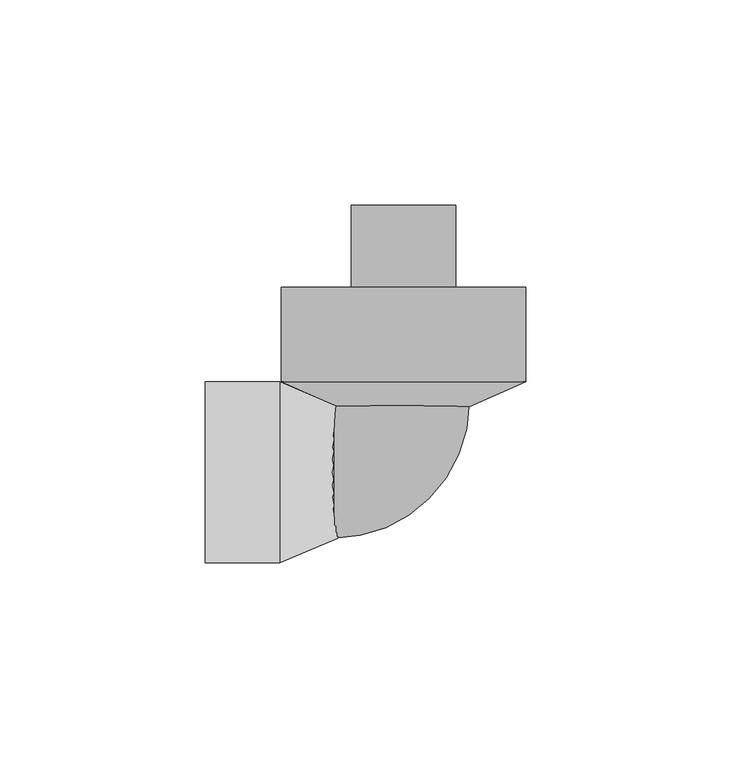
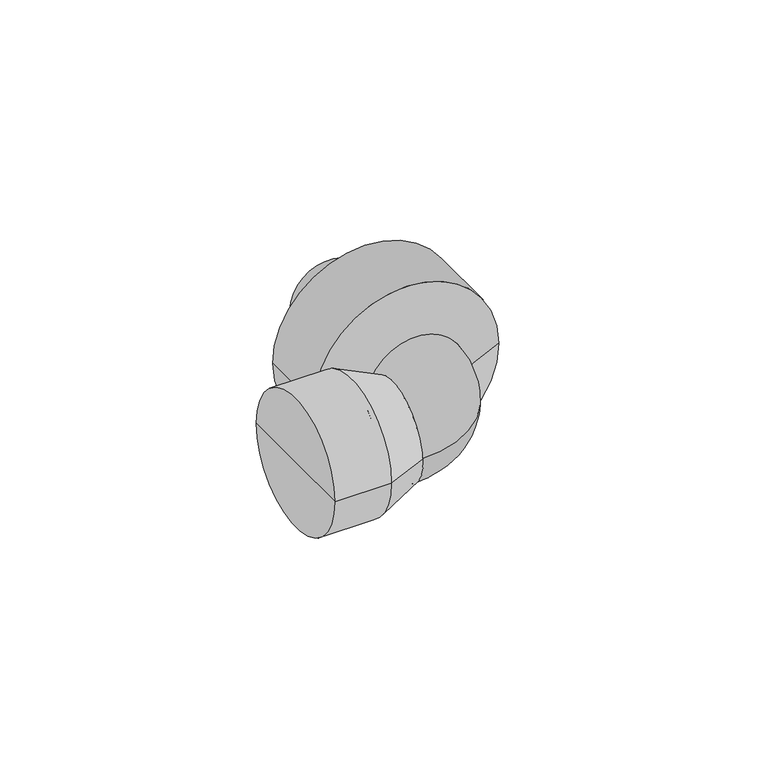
"""IFC4 building model written with IfcOpenShell, lengths in millimetres: pipe fitting geometry, KAN-therm PP kolano gz 1 : KAN-therm PP kolano gz 1."""

from ifc_helpers import new_model, si_unit, point, frame, origin, place, context, project, spatial, polyline, circle_curve, ellipse_curve, trimmed, source, transform, mapped, element, save
from ifc_brep_helpers import plane_surface, cylinder_surface, revolved_surface, advanced_brep


def pipe_fitting_ecdcb8ec(model_context):
    return source(origin(), model_context, "Body", "AdvancedBrep", [
        advanced_brep(
        [(0.0, 65.0, 0.0), (12.7, 65.0, 0.0), (-12.7, 65.0, 0.0), (-12.7, 45.0, 0.0), (12.7, 45.0, 0.0), (0.0, 45.0, 0.0)],
        [
            (0, 1),
            (1, 2, circle_curve(frame((0.0, 65.0, 0.0), z_axis=(0.0, 1.0, 0.0), x_axis=(1.0, 0.0, 0.0)), 12.7)),
            (2, 0),
            (2, 1, circle_curve(frame((0.0, 65.0, 0.0), z_axis=(0.0, 1.0, 0.0), x_axis=(1.0, 0.0, 0.0)), 12.7)),
            (3, 4, circle_curve(frame((0.0, 45.0, 0.0), z_axis=(0.0, -1.0, 0.0), x_axis=(1.0, 0.0, 0.0)), 12.7)),
            (4, 5),
            (5, 3),
            (4, 3, circle_curve(frame((0.0, 45.0, 0.0), z_axis=(0.0, -1.0, 0.0), x_axis=(1.0, 0.0, 0.0)), 12.7)),
            (1, 4),
            (3, 2),
        ],
        [
            plane_surface(frame((0.0, 65.0, 0.0), z_axis=(0.0, 1.0, 0.0), x_axis=(1.0, 0.0, 0.0))),
            plane_surface(frame((0.0, 45.0, 0.0), z_axis=(0.0, -1.0, 0.0), x_axis=(1.0, 0.0, 0.0))),
            cylinder_surface(frame((0.0, 2017.0, 0.0), z_axis=(0.0, 1.0, 0.0), x_axis=(1.0, 0.0, 0.0)), 12.7),
        ],
        [
            (0, [[1, 2, 3]]),
            (0, [[-3, 4, -1]]),
            (1, [[5, 6, 7]]),
            (1, [[8, -7, -6]]),
            (2, [[-2, 9, -5, 10]]),
            (2, [[-4, -10, -8, -9]]),
        ],
    ),
        advanced_brep(
        [(-16.0, 33.5, 0.0), (16.0, 33.5, 0.0), (-16.0, 17.0, 0.0), (16.0, 17.0, 0.0), (-30.15, 16.0, 0.0), (-30.15, -16.0, 0.0), (-17.0, -16.0, 0.0), (-17.0, 16.0, 0.0)],
        [
            (0, 1, circle_curve(frame((0.0, 33.5, 0.0), z_axis=(0.0, 1.0, 0.0), x_axis=(1.0, 0.0, 0.0)), 16.0)),
            (1, 0, circle_curve(frame((0.0, 33.5, 0.0), z_axis=(0.0, 1.0, 0.0), x_axis=(1.0, 0.0, 0.0)), 16.0)),
            (0, 2),
            (2, 3, circle_curve(frame((0.0, 17.0, 0.0), z_axis=(0.0, 1.0, 0.0), x_axis=(1.0, 0.0, 0.0)), 16.0)),
            (3, 1),
            (3, 2, circle_curve(frame((0.0, 17.0, 0.0), z_axis=(0.0, 1.0, 0.0), x_axis=(1.0, 0.0, 0.0)), 16.0)),
            (4, 5, circle_curve(frame((-30.15, 0.0, 0.0), z_axis=(-1.0, 0.0, 0.0), x_axis=(0.0, -1.0, 0.0)), 16.0)),
            (5, 4, circle_curve(frame((-30.15, 0.0, 0.0), z_axis=(-1.0, 0.0, 0.0), x_axis=(0.0, -1.0, 0.0)), 16.0)),
            (6, 7, circle_curve(frame((-17.0, 0.0, 0.0), z_axis=(-1.0, 0.0, 0.0), x_axis=(0.0, -1.0, 0.0)), 16.0)),
            (7, 4),
            (5, 6),
            (7, 6, circle_curve(frame((-17.0, 0.0, 0.0), z_axis=(-1.0, 0.0, 0.0), x_axis=(0.0, -1.0, 0.0)), 16.0)),
            (6, 3, circle_curve(frame((-17.0, 17.0, 0.0), z_axis=(0.0, 0.0, 1.0), x_axis=(1.0, 0.0, 0.0)), 33.0)),
            (2, 7, circle_curve(frame((-17.0, 17.0, 0.0), z_axis=(0.0, 0.0, -1.0), x_axis=(1.0, 0.0, 0.0)), 1.0)),
        ],
        [
            plane_surface(frame((0.0, 33.5, 0.0), z_axis=(0.0, 1.0, 0.0), x_axis=(0.0, 0.0, 1.0))),
            cylinder_surface(frame((0.0, 33.5, 0.0), z_axis=(0.0, 1.0, 0.0), x_axis=(1.0, 0.0, 0.0)), 16.0),
            plane_surface(frame((-30.15, 0.0, 0.0), z_axis=(-1.0, 0.0, 0.0), x_axis=(0.0, 0.0, 1.0))),
            cylinder_surface(frame((-17.0, 0.0, 0.0), z_axis=(1.0, 0.0, 0.0), x_axis=(0.0, -1.0, 0.0)), 16.0),
            revolved_surface(trimmed(ellipse_curve(frame((0.0, 17.0, 0.0), z_axis=(0.0, 1.0, 0.0), x_axis=(1.0, 0.0, 0.0)), 16.0, 16.0), [point((-16.0, 17.0, 0.0))], [point((16.0, 17.0, 0.0))], True, "CARTESIAN"), (-17.0, 17.0, 0.0), (0.0, 0.0, -1.0)),
            revolved_surface(trimmed(ellipse_curve(frame((0.0, 17.0, 0.0), z_axis=(0.0, 1.0, 0.0), x_axis=(1.0, 0.0, 0.0)), 16.0, 16.0), [point((16.0, 17.0, 0.0))], [point((-16.0, 17.0, 0.0))], True, "CARTESIAN"), (-17.0, 17.0, 0.0), (0.0, 0.0, -1.0)),
        ],
        [
            (0, [[1, 2]]),
            (1, [[-1, 3, 4, 5]]),
            (1, [[-2, -5, 6, -3]]),
            (2, [[7, 8]]),
            (3, [[9, 10, -8, 11]]),
            (3, [[12, -11, -7, -10]]),
            (4, [[13, -4, 14, -9]]),
            (5, [[-14, -6, -13, -12]]),
        ],
    ),
        advanced_brep(
        [(0.0, 45.0, 0.0), (29.75, 45.0, 0.0), (-29.75, 45.0, 0.0), (-16.0, 16.0, 0.0), (16.0, 16.0, 0.0), (0.0, 16.0, 0.0), (29.75, 22.0, 0.0), (-29.75, 22.0, 0.0)],
        [
            (0, 1),
            (1, 2, circle_curve(frame((0.0, 45.0, 0.0), z_axis=(0.0, 1.0, 0.0), x_axis=(1.0, 0.0, 0.0)), 29.75)),
            (2, 0),
            (2, 1, circle_curve(frame((0.0, 45.0, 0.0), z_axis=(0.0, 1.0, 0.0), x_axis=(1.0, 0.0, 0.0)), 29.75)),
            (3, 4, circle_curve(frame((0.0, 16.0, 0.0), z_axis=(0.0, -1.0, 0.0), x_axis=(1.0, 0.0, 0.0)), 16.0)),
            (4, 5),
            (5, 3),
            (4, 3, circle_curve(frame((0.0, 16.0, 0.0), z_axis=(0.0, -1.0, 0.0), x_axis=(1.0, 0.0, 0.0)), 16.0)),
            (1, 6),
            (6, 7, circle_curve(frame((0.0, 22.0, 0.0), z_axis=(0.0, 1.0, 0.0), x_axis=(1.0, 0.0, 0.0)), 29.75)),
            (7, 2),
            (7, 6, circle_curve(frame((0.0, 22.0, 0.0), z_axis=(0.0, 1.0, 0.0), x_axis=(1.0, 0.0, 0.0)), 29.75)),
            (6, 4),
            (3, 7),
        ],
        [
            plane_surface(frame((0.0, 45.0, 0.0), z_axis=(0.0, 1.0, 0.0), x_axis=(1.0, 0.0, 0.0))),
            plane_surface(frame((0.0, 16.0, 0.0), z_axis=(0.0, -1.0, 0.0), x_axis=(1.0, 0.0, 0.0))),
            cylinder_surface(frame((0.0, 2028.0, 0.0), z_axis=(0.0, 1.0, 0.0), x_axis=(1.0, 0.0, 0.0)), 29.75),
            revolved_surface(polyline([(16.0, 16.0, 0.0), (29.75, 22.0, 0.0)]), (0.0, 2028.0, 0.0), (0.0, 1.0, 0.0)),
        ],
        [
            (0, [[1, 2, 3]]),
            (0, [[-3, 4, -1]]),
            (1, [[5, 6, 7]]),
            (1, [[8, -7, -6]]),
            (2, [[-2, 9, 10, 11]]),
            (2, [[-4, -11, 12, -9]]),
            (3, [[-10, 13, -5, 14]]),
            (3, [[-12, -14, -8, -13]]),
        ],
    ),
        advanced_brep(
        [(-30.15, 22.0, 0.0), (-30.15, -22.0, 0.0), (-48.25, -22.0, 0.0), (-48.25, 22.0, 0.0), (-16.0, 0.0, 0.0), (-16.0, -16.0, 0.0), (-16.0, 16.0, 0.0), (-48.25, 0.0, 0.0)],
        [
            (0, 1, circle_curve(frame((-30.15, 0.0, 0.0), z_axis=(-1.0, 0.0, 0.0), x_axis=(0.0, -1.0, 0.0)), 22.0)),
            (1, 2),
            (2, 3, circle_curve(frame((-48.25, 0.0, 0.0), z_axis=(1.0, 0.0, 0.0), x_axis=(0.0, -1.0, 0.0)), 22.0)),
            (3, 0),
            (1, 0, circle_curve(frame((-30.15, 0.0, 0.0), z_axis=(-1.0, 0.0, 0.0), x_axis=(0.0, -1.0, 0.0)), 22.0)),
            (3, 2, circle_curve(frame((-48.25, 0.0, 0.0), z_axis=(1.0, 0.0, 0.0), x_axis=(0.0, -1.0, 0.0)), 22.0)),
            (4, 5),
            (5, 6, circle_curve(frame((-16.0, 0.0, 0.0), z_axis=(1.0, 0.0, 0.0), x_axis=(0.0, -1.0, 0.0)), 16.0)),
            (6, 4),
            (6, 5, circle_curve(frame((-16.0, 0.0, 0.0), z_axis=(1.0, 0.0, 0.0), x_axis=(0.0, -1.0, 0.0)), 16.0)),
            (2, 7),
            (7, 3),
            (5, 1),
            (0, 6),
        ],
        [
            cylinder_surface(frame((2010.25, 0.0, 0.0), z_axis=(1.0, 0.0, 0.0), x_axis=(0.0, -1.0, 0.0)), 22.0),
            plane_surface(frame((-16.0, 0.0, 0.0), z_axis=(1.0, 0.0, 0.0), x_axis=(0.0, -1.0, 0.0))),
            plane_surface(frame((-48.25, 0.0, 0.0), z_axis=(-1.0, 0.0, 0.0), x_axis=(0.0, -1.0, 0.0))),
            revolved_surface(polyline([(-30.15, -22.0, 0.0), (-16.0, -16.0, 0.0)]), (2010.25, 0.0, 0.0), (1.0, 0.0, 0.0)),
        ],
        [
            (0, [[1, 2, 3, 4]]),
            (0, [[5, -4, 6, -2]]),
            (1, [[7, 8, 9]]),
            (1, [[-9, 10, -7]]),
            (2, [[-3, 11, 12]]),
            (2, [[-6, -12, -11]]),
            (3, [[-8, 13, -1, 14]]),
            (3, [[-10, -14, -5, -13]]),
        ],
    ),
    ])


if __name__ == "__main__":
    model = new_model("IFC4")
    model_context = context("Model", 3, world=origin())
    ifc_project = project(units=[si_unit("LENGTHUNIT", "METRE", prefix="MILLI")], contexts=[model_context])
    site = spatial("IfcSite", under=ifc_project)
    building = spatial("IfcBuilding", under=site)
    placement = place(None, origin())
    pipe_fitting_shape = pipe_fitting_ecdcb8ec(model_context)
    element("IfcPipeFitting", 1, ObjectType="KAN-therm PP kolano gz 1 : KAN-therm PP kolano gz 1", at=placement, inside=building, context=model_context, shape_type="MappedRepresentation", body=[
        mapped(pipe_fitting_shape, transform((0.0, 0.0, 0.0), x_axis=(1.0, 0.0, 0.0), y_axis=(0.0, 1.0, 0.0), z_axis=(0.0, 0.0, 1.0))),
    ])
    save(model, "model.ifc")
